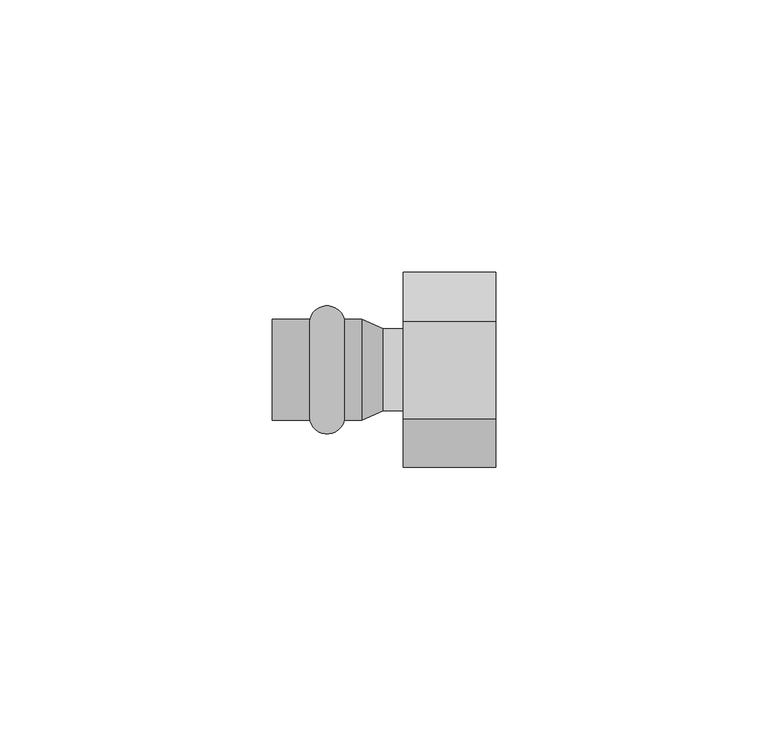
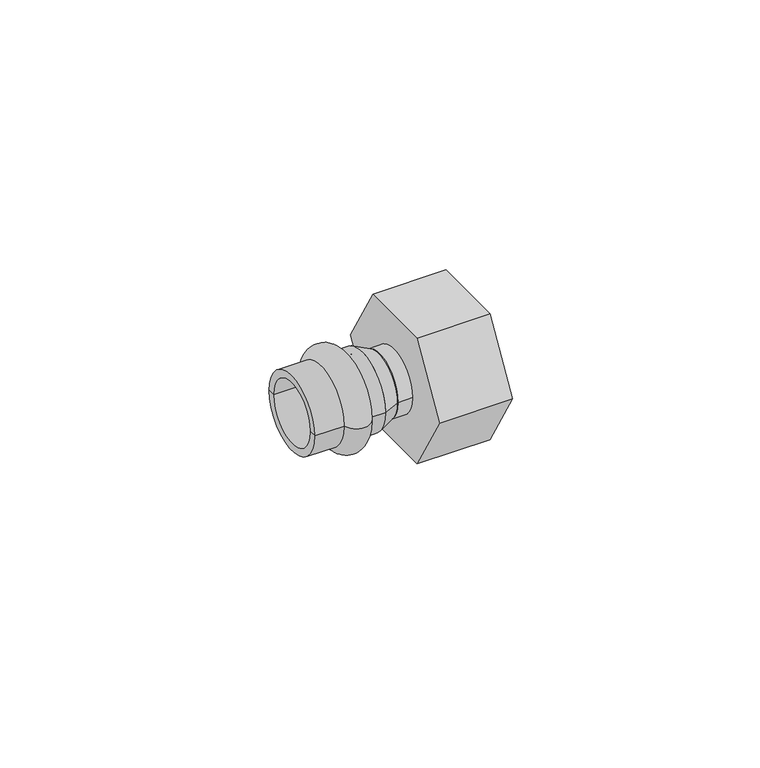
"""IFC4 building model written with IfcOpenShell, lengths in millimetres: pipe fitting geometry, VALTEC_VTi.908.I_Соединитель с накидной гайкой_Нержавеющая сталь : VTi.908.I."""

from ifc_helpers import new_model, si_unit, point, frame, origin, origin_2d, place, context, project, spatial, polyline, circle_curve, ellipse_curve, trimmed, segment, composite_curve, outline, extrude, source, transform, mapped, element, save
from ifc_brep_helpers import plane_surface, cylinder_surface, revolved_surface, advanced_brep


def pipe_fitting_29d69b37(model_context):
    return source(origin(), model_context, "Body", "SolidModel", [
        advanced_brep(
        [(-25.6122777, -9.25, 0.0), (-25.6122777, 9.25, 0.0), (-19.2877223, 9.25, 0.0), (-19.2877223, -9.25, 0.0), (-32.5, -9.25, 0.0), (-32.5, 9.25, 0.0), (-32.5, -7.5, 0.0), (-32.5, 7.5, 0.0), (-16.1, -7.5, 0.0), (-16.1, 7.5, 0.0), (-16.1, -9.25, 0.0), (-16.1, 9.25, 0.0)],
        [
            (0, 1, circle_curve(frame((-25.6122777, 0.0, 0.0), z_axis=(1.0, 0.0, 0.0), x_axis=(0.0, 1.0, 0.0)), 9.25)),
            (1, 2, circle_curve(frame((-22.45, 8.5, 0.0), z_axis=(0.0, 0.0, -1.0), x_axis=(1.0, 0.0, 0.0)), 3.25)),
            (2, 3, circle_curve(frame((-19.2877223, 0.0, 0.0), z_axis=(-1.0, 0.0, 0.0), x_axis=(0.0, 1.0, 0.0)), 9.25)),
            (3, 0, circle_curve(frame((-22.45, -8.5, 0.0), z_axis=(0.0, 0.0, -1.0), x_axis=(1.0, 0.0, 0.0)), 3.25)),
            (1, 0, circle_curve(frame((-25.6122777, 0.0, 0.0), z_axis=(1.0, 0.0, 0.0), x_axis=(0.0, 1.0, 0.0)), 9.25)),
            (3, 2, circle_curve(frame((-19.2877223, 0.0, 0.0), z_axis=(-1.0, 0.0, 0.0), x_axis=(0.0, 1.0, 0.0)), 9.25)),
            (4, 5, circle_curve(frame((-32.5, 0.0, 0.0), z_axis=(1.0, 0.0, 0.0), x_axis=(0.0, 1.0, 0.0)), 9.25)),
            (5, 1),
            (0, 4),
            (5, 4, circle_curve(frame((-32.5, 0.0, 0.0), z_axis=(1.0, 0.0, 0.0), x_axis=(0.0, 1.0, 0.0)), 9.25)),
            (6, 7, circle_curve(frame((-32.5, 0.0, 0.0), z_axis=(1.0, 0.0, 0.0), x_axis=(0.0, 1.0, 0.0)), 7.5)),
            (7, 5),
            (4, 6),
            (7, 6, circle_curve(frame((-32.5, 0.0, 0.0), z_axis=(1.0, 0.0, 0.0), x_axis=(0.0, 1.0, 0.0)), 7.5)),
            (8, 9, circle_curve(frame((-16.1, 0.0, 0.0), z_axis=(1.0, 0.0, 0.0), x_axis=(0.0, 1.0, 0.0)), 7.5)),
            (9, 7),
            (6, 8),
            (9, 8, circle_curve(frame((-16.1, 0.0, 0.0), z_axis=(1.0, 0.0, 0.0), x_axis=(0.0, 1.0, 0.0)), 7.5)),
            (10, 11, circle_curve(frame((-16.1, 0.0, 0.0), z_axis=(1.0, 0.0, 0.0), x_axis=(0.0, 1.0, 0.0)), 9.25)),
            (11, 9),
            (8, 10),
            (11, 10, circle_curve(frame((-16.1, 0.0, 0.0), z_axis=(1.0, 0.0, 0.0), x_axis=(0.0, 1.0, 0.0)), 9.25)),
            (2, 11),
            (10, 3),
        ],
        [
            revolved_surface(trimmed(ellipse_curve(frame((-22.45, 8.5, 0.0), z_axis=(0.0, 0.0, 1.0), x_axis=(1.0, 0.0, 0.0)), 3.25, 3.25), [point((-19.2877223, 9.25, 0.0))], [point((-25.6122777, 9.25, 0.0))], True, "CARTESIAN"), (-36.0364426, 0.0, 0.0), (-1.0, 0.0, 0.0)),
            cylinder_surface(frame((-36.0364426, 0.0, 0.0), z_axis=(-1.0, 0.0, 0.0), x_axis=(0.0, 1.0, 0.0)), 9.25),
            plane_surface(frame((-32.5, 0.0, 0.0), z_axis=(-1.0, 0.0, 0.0), x_axis=(0.0, 1.0, 0.0))),
            revolved_surface(polyline([(-32.5, 7.5, 0.0), (-16.1, 7.5, 0.0)]), (-36.0364426, 0.0, 0.0), (-1.0, 0.0, 0.0)),
            plane_surface(frame((-16.1, 0.0, 0.0), z_axis=(1.0, 0.0, 0.0), x_axis=(0.0, 1.0, 0.0))),
        ],
        [
            (0, [[1, 2, 3, 4]]),
            (0, [[5, -4, 6, -2]]),
            (1, [[7, 8, -1, 9]]),
            (1, [[10, -9, -5, -8]]),
            (2, [[11, 12, -7, 13]]),
            (2, [[14, -13, -10, -12]]),
            (3, [[15, 16, -11, 17]]),
            (3, [[18, -17, -14, -16]]),
            (4, [[19, 20, -15, 21]]),
            (4, [[22, -21, -18, -20]]),
            (1, [[-3, 23, -19, 24]]),
            (1, [[-6, -24, -22, -23]]),
        ],
    ),
        extrude(outline(polyline([(-17.8978583, 0.0), (-8.9489292, 15.5), (8.9489292, 15.5), (17.8978583, 0.0), (8.9489292, -15.5), (-8.9489292, -15.5), (-17.8978583, 0.0)])), frame((-8.5, 0.0, 0.0), z_axis=(1.0, 0.0, 0.0), x_axis=(0.0, 1.0, 0.0)), (0.0, 0.0, 1.0), 17.0),
        extrude(outline(composite_curve([segment(trimmed(circle_curve(origin_2d(), 7.5), [point((-7.5, 0.0))], [point((7.5, 0.0))], False, "CARTESIAN"), True, "CONTINUOUS"), segment(trimmed(circle_curve(origin_2d(), 7.5), [point((7.5, 0.0))], [point((-7.5, 0.0))], False, "CARTESIAN"), True, "CONTINUOUS")], self_intersect=False)), frame((-12.1, 0.0, 0.0), z_axis=(1.0, 0.0, 0.0), x_axis=(0.0, 1.0, 0.0)), (0.0, 0.0, 1.0), 3.6),
        advanced_brep(
        [(-12.1, -7.5, 0.0), (-12.1, 7.5, 0.0), (-16.1, -9.25, 0.0), (-16.1, 9.25, 0.0)],
        [
            (0, 1, circle_curve(frame((-12.1, 0.0, 0.0), z_axis=(1.0, 0.0, 0.0), x_axis=(0.0, -1.0, 0.0)), 7.5)),
            (1, 0, circle_curve(frame((-12.1, 0.0, 0.0), z_axis=(1.0, 0.0, 0.0), x_axis=(0.0, 1.0, 0.0)), 7.5)),
            (2, 3, circle_curve(frame((-16.1, 0.0, 0.0), z_axis=(-1.0, 0.0, 0.0), x_axis=(0.0, 1.0, 0.0)), 9.25)),
            (3, 2, circle_curve(frame((-16.1, 0.0, 0.0), z_axis=(-1.0, 0.0, 0.0), x_axis=(0.0, -1.0, 0.0)), 9.25)),
            (3, 1),
            (0, 2),
        ],
        [
            plane_surface(frame((-12.1, 0.0, 0.0), z_axis=(1.0, 0.0, 0.0), x_axis=(0.0, 0.0, -1.0))),
            plane_surface(frame((-16.1, 0.0, 0.0), z_axis=(-1.0, 0.0, 0.0), x_axis=(0.0, 0.0, -1.0))),
            revolved_surface(polyline([(-12.100000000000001, -7.499999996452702, 0.0), (-16.1, -9.25, 0.0)]), (5.0428571, 0.0, 0.0), (-1.0, 0.0, 0.0)),
            revolved_surface(polyline([(-12.100000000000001, 7.499999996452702, 0.0), (-16.1, 9.25, 0.0)]), (5.0428571, 0.0, 0.0), (-1.0, 0.0, 0.0)),
        ],
        [
            (0, [[1, 2]]),
            (1, [[3, 4]]),
            (2, [[-4, 5, -1, 6]]),
            (3, [[-3, -6, -2, -5]]),
        ],
    ),
    ])


if __name__ == "__main__":
    model = new_model("IFC4")
    model_context = context("Model", 3, world=origin())
    ifc_project = project(units=[si_unit("LENGTHUNIT", "METRE", prefix="MILLI")], contexts=[model_context])
    site = spatial("IfcSite", under=ifc_project)
    building = spatial("IfcBuilding", under=site)
    placement = place(None, origin())
    pipe_fitting_shape = pipe_fitting_29d69b37(model_context)
    element("IfcPipeFitting", 1, ObjectType="VALTEC_VTi.908.I_Соединитель с накидной гайкой_Нержавеющая сталь : VTi.908.I", at=placement, inside=building, context=model_context, shape_type="MappedRepresentation", body=[
        mapped(pipe_fitting_shape, transform((0.0, 0.0, 0.0), x_axis=(1.0, 0.0, 0.0), y_axis=(0.0, 1.0, 0.0), z_axis=(0.0, 0.0, 1.0))),
    ])
    save(model, "model.ifc")
